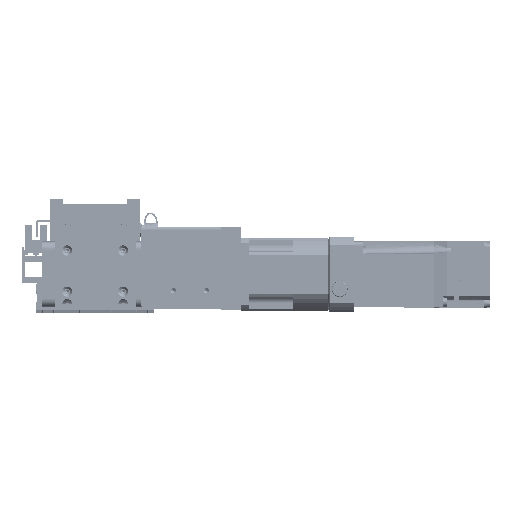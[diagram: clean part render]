
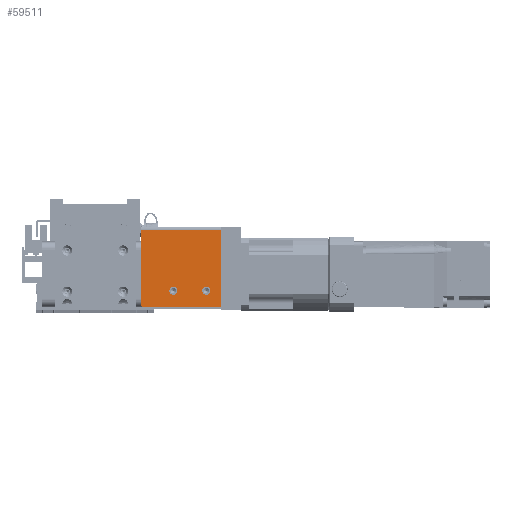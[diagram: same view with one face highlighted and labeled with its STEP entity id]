
A CAD part, top view. The second image highlights one B-rep face of the part: STEP entity #59511.
In plain terms, the highlighted planar face has unit normal (0, 0, 1) as drawn and (0, 0, -1) by its records, which use the part's own axes.
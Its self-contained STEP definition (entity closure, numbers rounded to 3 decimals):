
#1682=FACE_BOUND('',#9696,.T.);
#1683=FACE_BOUND('',#9697,.T.);
#3195=PLANE('',#65736);
#5937=FACE_OUTER_BOUND('',#9695,.T.);
#9695=EDGE_LOOP('',(#50961,#50962,#50963,#50964,#50965,#50966));
#9696=EDGE_LOOP('',(#50967));
#9697=EDGE_LOOP('',(#50968));
#13476=CIRCLE('',#65712,2.5);
#13480=CIRCLE('',#65718,2.5);
#13489=CIRCLE('',#65733,1.);
#13491=CIRCLE('',#65737,1.);
#18247=LINE('',#100619,#23262);
#18261=LINE('',#100651,#23276);
#18264=LINE('',#100665,#23279);
#18267=LINE('',#100670,#23282);
#23262=VECTOR('',#80208,10.);
#23276=VECTOR('',#80232,10.);
#23279=VECTOR('',#80247,10.);
#23282=VECTOR('',#80252,10.);
#28534=VERTEX_POINT('',#100585);
#28538=VERTEX_POINT('',#100597);
#28546=VERTEX_POINT('',#100616);
#28547=VERTEX_POINT('',#100618);
#28559=VERTEX_POINT('',#100648);
#28560=VERTEX_POINT('',#100650);
#28563=VERTEX_POINT('',#100658);
#28565=VERTEX_POINT('',#100664);
#36260=EDGE_CURVE('',#28534,#28534,#13476,.T.);
#36266=EDGE_CURVE('',#28538,#28538,#13480,.T.);
#36275=EDGE_CURVE('',#28546,#28547,#18247,.T.);
#36291=EDGE_CURVE('',#28559,#28560,#18261,.T.);
#36295=EDGE_CURVE('',#28547,#28563,#13489,.T.);
#36298=EDGE_CURVE('',#28563,#28565,#18264,.T.);
#36301=EDGE_CURVE('',#28560,#28546,#18267,.T.);
#36302=EDGE_CURVE('',#28565,#28559,#13491,.T.);
#50961=ORIENTED_EDGE('',*,*,#36295,.F.);
#50962=ORIENTED_EDGE('',*,*,#36275,.F.);
#50963=ORIENTED_EDGE('',*,*,#36301,.F.);
#50964=ORIENTED_EDGE('',*,*,#36291,.F.);
#50965=ORIENTED_EDGE('',*,*,#36302,.F.);
#50966=ORIENTED_EDGE('',*,*,#36298,.F.);
#50967=ORIENTED_EDGE('',*,*,#36260,.T.);
#50968=ORIENTED_EDGE('',*,*,#36266,.T.);
#59511=ADVANCED_FACE('',(#5937,#1682,#1683),#3195,.T.);
#65712=AXIS2_PLACEMENT_3D('',#100587,#80176,#80177);
#65718=AXIS2_PLACEMENT_3D('',#100599,#80190,#80191);
#65733=AXIS2_PLACEMENT_3D('',#100659,#80240,#80241);
#65736=AXIS2_PLACEMENT_3D('',#100669,#80250,#80251);
#65737=AXIS2_PLACEMENT_3D('',#100671,#80253,#80254);
#80176=DIRECTION('center_axis',(0.,0.,1.));
#80177=DIRECTION('ref_axis',(1.,0.,0.));
#80190=DIRECTION('center_axis',(0.,0.,1.));
#80191=DIRECTION('ref_axis',(1.,0.,0.));
#80208=DIRECTION('',(0.,-1.,0.));
#80232=DIRECTION('',(0.,1.,0.));
#80240=DIRECTION('center_axis',(0.,0.,1.));
#80241=DIRECTION('ref_axis',(-0.707,-0.707,0.));
#80247=DIRECTION('',(1.,0.,0.));
#80250=DIRECTION('center_axis',(0.,0.,-1.));
#80251=DIRECTION('ref_axis',(0.,1.,0.));
#80252=DIRECTION('',(-1.,0.,0.));
#80253=DIRECTION('center_axis',(0.,0.,1.));
#80254=DIRECTION('ref_axis',(0.707,-0.707,0.));
#100585=CARTESIAN_POINT('',(-17.75,-14.5,-27.));
#100587=CARTESIAN_POINT('Origin',(-15.25,-14.5,-27.));
#100597=CARTESIAN_POINT('',(2.25,-14.5,-27.));
#100599=CARTESIAN_POINT('Origin',(4.75,-14.5,-27.));
#100616=CARTESIAN_POINT('',(-24.25,22.5,-27.));
#100618=CARTESIAN_POINT('',(-24.25,-23.5,-27.));
#100619=CARTESIAN_POINT('',(-24.25,-24.5,-27.));
#100648=CARTESIAN_POINT('',(24.25,-23.5,-27.));
#100650=CARTESIAN_POINT('',(24.25,22.5,-27.));
#100651=CARTESIAN_POINT('',(24.25,-24.5,-27.));
#100658=CARTESIAN_POINT('',(-23.25,-24.5,-27.));
#100659=CARTESIAN_POINT('Origin',(-23.25,-23.5,-27.));
#100664=CARTESIAN_POINT('',(23.25,-24.5,-27.));
#100665=CARTESIAN_POINT('',(0.,-24.5,-27.));
#100669=CARTESIAN_POINT('Origin',(0.,-24.5,-27.));
#100670=CARTESIAN_POINT('',(0.,22.5,-27.));
#100671=CARTESIAN_POINT('Origin',(23.25,-23.5,-27.));
